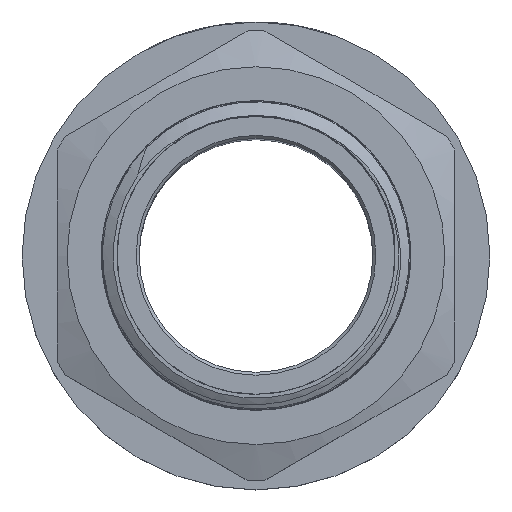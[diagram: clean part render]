
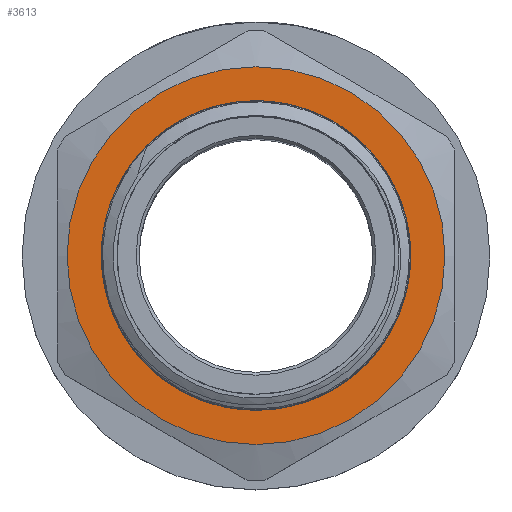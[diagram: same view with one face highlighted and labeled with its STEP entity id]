
A CAD part, top view. The second image highlights one B-rep face of the part: STEP entity #3613.
In plain terms, the highlighted planar face has unit normal (0, 0, 1).
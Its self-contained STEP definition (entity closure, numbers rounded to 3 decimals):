
#306=FACE_BOUND('',#1081,.T.);
#335=PLANE('',#3872);
#871=FACE_OUTER_BOUND('',#1080,.T.);
#1080=EDGE_LOOP('',(#2532));
#1081=EDGE_LOOP('',(#2533));
#1308=CIRCLE('',#3845,16.152);
#1326=CIRCLE('',#3873,13.22);
#1482=VERTEX_POINT('',#4987);
#1514=VERTEX_POINT('',#5099);
#1880=EDGE_CURVE('',#1482,#1482,#1308,.T.);
#1922=EDGE_CURVE('',#1514,#1514,#1326,.T.);
#2532=ORIENTED_EDGE('',*,*,#1880,.T.);
#2533=ORIENTED_EDGE('',*,*,#1922,.F.);
#3613=ADVANCED_FACE('',(#871,#306),#335,.T.);
#3845=AXIS2_PLACEMENT_3D('',#4988,#4174,#4175);
#3872=AXIS2_PLACEMENT_3D('',#5098,#4238,#4239);
#3873=AXIS2_PLACEMENT_3D('',#5100,#4240,#4241);
#4174=DIRECTION('center_axis',(0.,0.,1.));
#4175=DIRECTION('ref_axis',(-1.,0.,0.));
#4238=DIRECTION('center_axis',(0.,0.,1.));
#4239=DIRECTION('ref_axis',(1.,0.,0.));
#4240=DIRECTION('center_axis',(0.,0.,1.));
#4241=DIRECTION('ref_axis',(0.,-1.,0.));
#4987=CARTESIAN_POINT('',(16.152,0.,50.3));
#4988=CARTESIAN_POINT('Origin',(0.,0.,50.3));
#5098=CARTESIAN_POINT('Origin',(0.,0.,
50.3));
#5099=CARTESIAN_POINT('',(0.,13.22,50.3));
#5100=CARTESIAN_POINT('Origin',(0.,0.,50.3));
